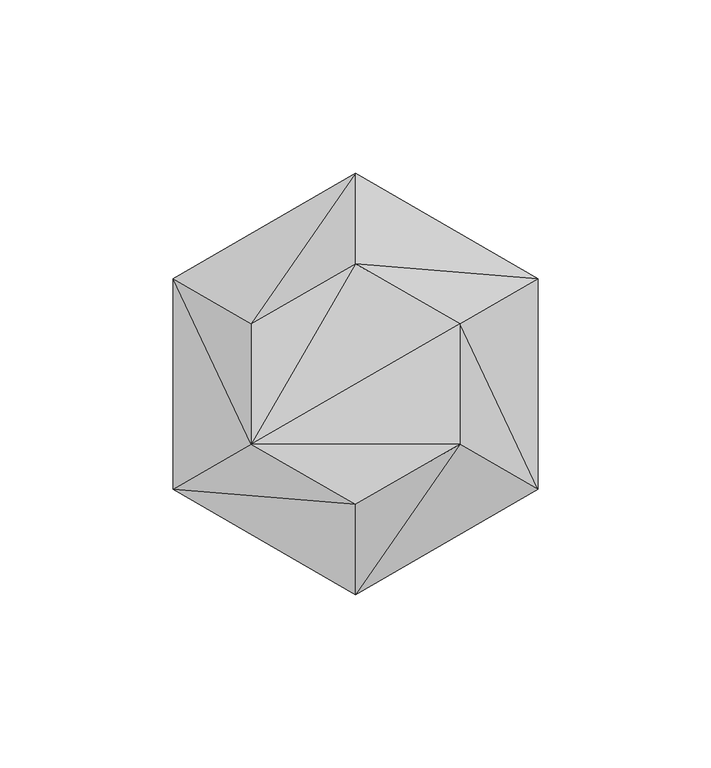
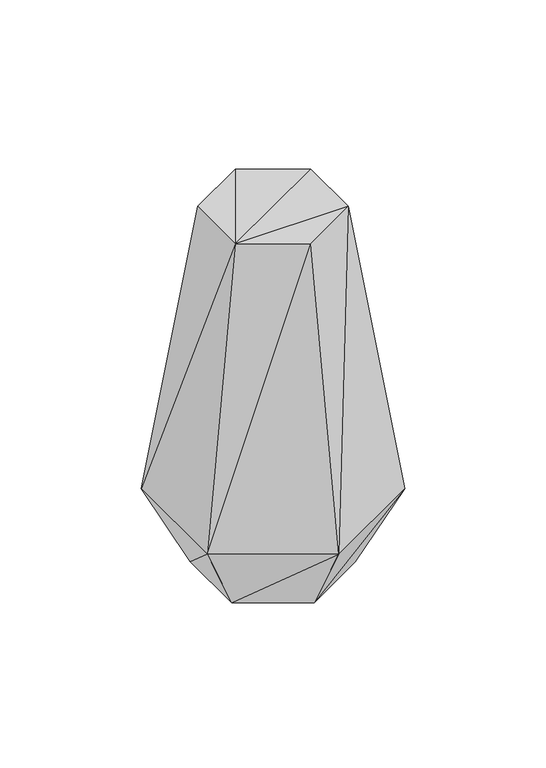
"""IFC4 building model written with IfcOpenShell, lengths in millimetres: geographic element geometry, Enscape AssetDefinition - Origami Vase 04 : Enscape AssetDefinition - Origami Vase 04."""

from ifc_helpers import new_model, si_unit, origin, place, context, project, spatial, faceted_brep, source, transform, mapped, element, save


def geographic_element_f0b484e9(model_context):
    return source(origin(), model_context, "Body", "Brep", [
        faceted_brep([(-32.9975076, -19.0523695, -0.0299252), (0.0, -60.8678311, 40.9875289), (-52.7182035, -30.4339156, 40.9875289), (0.0, -38.0947627, -0.0299252), (52.7182035, -30.4339156, 40.9875289), (30.1147122, -17.3865333, 200.2992481), (0.0, -34.7730666, 200.2992481), (-32.9975076, 19.0523695, -0.0299252), (-52.7182035, 30.4339156, 40.9875289), (0.0, 38.0947627, -0.0299252), (0.0, 60.8678311, 40.9875289), (-30.1147122, 17.3865333, 200.2992481), (-30.1147122, -17.3865333, 200.2992481), (32.9975076, 19.0523695, -0.0299252), (52.7182035, 30.4339156, 40.9875289), (0.0, 34.7730666, 200.2992481), (30.1147122, 17.3865333, 200.2992481), (32.9975076, -19.0523695, -0.0299252)], [[[0, 1, 2]], [[3, 1, 0]], [[3, 4, 1]], [[1, 5, 6]], [[4, 5, 1]], [[1, 6, 2]], [[0, 2, 7]], [[7, 3, 0]], [[7, 2, 8]], [[7, 8, 9]], [[9, 3, 7]], [[9, 8, 10]], [[8, 11, 10]], [[8, 12, 11]], [[2, 12, 8]], [[9, 10, 13]], [[13, 3, 9]], [[13, 10, 14]], [[10, 15, 14]], [[10, 11, 15]], [[12, 15, 11]], [[5, 12, 6]], [[16, 12, 5]], [[15, 12, 16]], [[2, 6, 12]], [[14, 15, 16]], [[17, 14, 4]], [[13, 14, 17]], [[14, 16, 4]], [[3, 13, 17]], [[17, 4, 3]], [[4, 16, 5]]]),
    ])


if __name__ == "__main__":
    model = new_model("IFC4")
    model_context = context("Model", 3, world=origin())
    ifc_project = project(units=[si_unit("LENGTHUNIT", "METRE", prefix="MILLI")], contexts=[model_context])
    site = spatial("IfcSite", under=ifc_project)
    building = spatial("IfcBuilding", under=site)
    placement = place(None, origin())
    geographic_element_shape = geographic_element_f0b484e9(model_context)
    element("IfcGeographicElement", 1, ObjectType="Enscape AssetDefinition - Origami Vase 04 : Enscape AssetDefinition - Origami Vase 04", at=placement, inside=building, context=model_context, shape_type="MappedRepresentation", body=[
        mapped(geographic_element_shape, transform((0.0, 0.0, 0.0), x_axis=(1.0, 0.0, 0.0), y_axis=(0.0, 1.0, 0.0), z_axis=(0.0, 0.0, 1.0))),
    ])
    save(model, "model.ifc")
